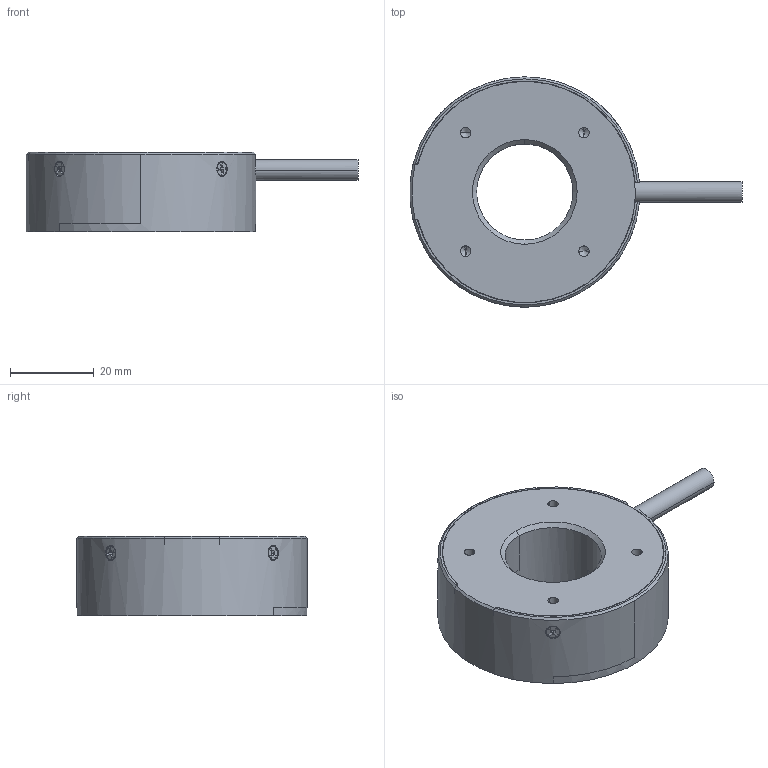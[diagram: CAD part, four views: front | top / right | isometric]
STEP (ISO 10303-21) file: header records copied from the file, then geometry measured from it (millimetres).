
FILE_DESCRIPTION((''),'2;1');
FILE_NAME('MV-LRDS-H-55-90-W','2022-09-02T11:50:36',('qiaoxuan5'),(''),'CREO PARAMETRIC BY PTC INC, 2020044','CREO PARAMETRIC BY PTC INC, 2020044','');
FILE_SCHEMA(('CONFIG_CONTROL_DESIGN'));
Length unit declared in the file: metre
Products named in the file (1): MV-LRDS-H-55-90-W
Bounding box: 79.3 x 55 x 19 mm (x, y, z)
Volume: 37021.9 mm3; surface area: 11714.1 mm2
Topology: 1 solids, 9 shells, 434 faces, 1080 edges, 662 vertices
Faces by surface type: plane 258, cylinder 114, cone 62
Entity records: 13371 total; most frequent: CARTESIAN_POINT 3097, ORIENTED_EDGE 2128, DIRECTION 2092, EDGE_CURVE 1064, AXIS2_PLACEMENT_3D 698, VECTOR 696, LINE 696, VERTEX_POINT 662
